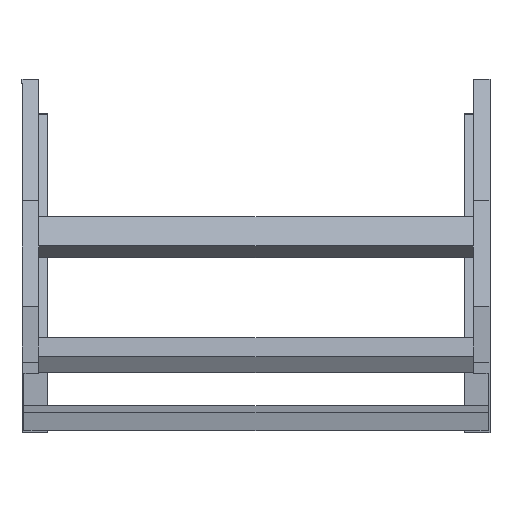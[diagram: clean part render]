
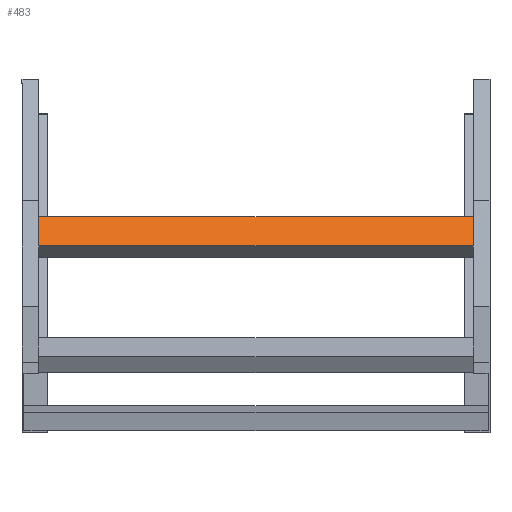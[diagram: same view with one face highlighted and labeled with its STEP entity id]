
A CAD part, top view. The second image highlights one B-rep face of the part: STEP entity #483.
In plain terms, the highlighted planar face has unit normal (0, 0.643, 0.766) as drawn and (0, 1, 0) by its records, which use the part's own axes.
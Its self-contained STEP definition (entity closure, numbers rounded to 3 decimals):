
#1 = CARTESIAN_POINT ( 'NONE',  ( -248., 20., -20.25 ) ) ;
#56 = ORIENTED_EDGE ( 'NONE', *, *, #672, .F. ) ;
#64 = VECTOR ( 'NONE', #1603, 1000. ) ;
#127 = LINE ( 'NONE', #641, #1085 ) ;
#177 = DIRECTION ( 'NONE',  ( 0., 0., -1. ) ) ;
#264 = DIRECTION ( 'NONE',  ( -1., 0., 0. ) ) ;
#277 = LINE ( 'NONE', #1329, #1140 ) ;
#313 = CARTESIAN_POINT ( 'NONE',  ( -248., 20., 20.25 ) ) ;
#483 = ADVANCED_FACE ( 'NONE', ( #561 ), #1094, .F. ) ;
#525 = VERTEX_POINT ( 'NONE', #998 ) ;
#561 = FACE_OUTER_BOUND ( 'NONE', #1097, .T. ) ;
#641 = CARTESIAN_POINT ( 'NONE',  ( 248., 20., -20.25 ) ) ;
#672 = EDGE_CURVE ( 'NONE', #1078, #682, #277, .T. ) ;
#682 = VERTEX_POINT ( 'NONE', #1336 ) ;
#699 = DIRECTION ( 'NONE',  ( -1., 0., 0. ) ) ;
#906 = DIRECTION ( 'NONE',  ( 0., 0., 1. ) ) ;
#926 = AXIS2_PLACEMENT_3D ( 'NONE', #1610, #970, #177 ) ;
#970 = DIRECTION ( 'NONE',  ( 0., -1., 0. ) ) ;
#976 = EDGE_CURVE ( 'NONE', #525, #1078, #1678, .T. ) ;
#998 = CARTESIAN_POINT ( 'NONE',  ( 248., 20., -20.25 ) ) ;
#1050 = VERTEX_POINT ( 'NONE', #1 ) ;
#1078 = VERTEX_POINT ( 'NONE', #1487 ) ;
#1085 = VECTOR ( 'NONE', #264, 1000. ) ;
#1094 = PLANE ( 'NONE',  #926 ) ;
#1097 = EDGE_LOOP ( 'NONE', ( #1689, #56, #1478, #1520 ) ) ;
#1140 = VECTOR ( 'NONE', #699, 1000. ) ;
#1144 = EDGE_CURVE ( 'NONE', #1050, #682, #1636, .T. ) ;
#1244 = EDGE_CURVE ( 'NONE', #525, #1050, #127, .T. ) ;
#1275 = VECTOR ( 'NONE', #906, 1000. ) ;
#1277 = CARTESIAN_POINT ( 'NONE',  ( 248., 20., 20.25 ) ) ;
#1329 = CARTESIAN_POINT ( 'NONE',  ( 248., 20., 20.25 ) ) ;
#1336 = CARTESIAN_POINT ( 'NONE',  ( -248., 20., 20.25 ) ) ;
#1478 = ORIENTED_EDGE ( 'NONE', *, *, #976, .F. ) ;
#1487 = CARTESIAN_POINT ( 'NONE',  ( 248., 20., 20.25 ) ) ;
#1520 = ORIENTED_EDGE ( 'NONE', *, *, #1244, .T. ) ;
#1603 = DIRECTION ( 'NONE',  ( 0., 0., 1. ) ) ;
#1610 = CARTESIAN_POINT ( 'NONE',  ( 248., 20., 20.25 ) ) ;
#1636 = LINE ( 'NONE', #313, #64 ) ;
#1678 = LINE ( 'NONE', #1277, #1275 ) ;
#1689 = ORIENTED_EDGE ( 'NONE', *, *, #1144, .T. ) ;
